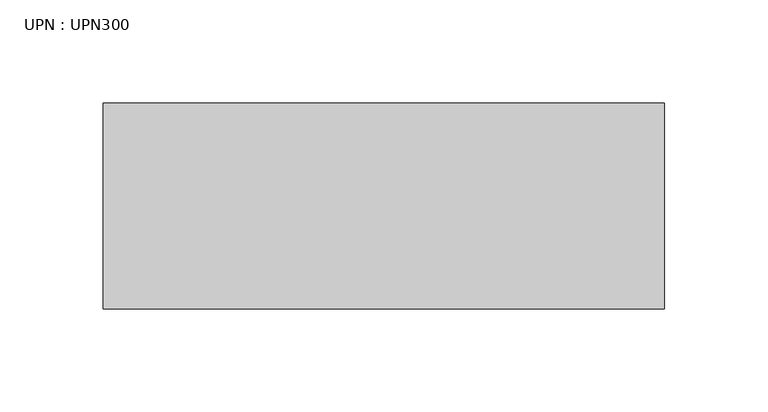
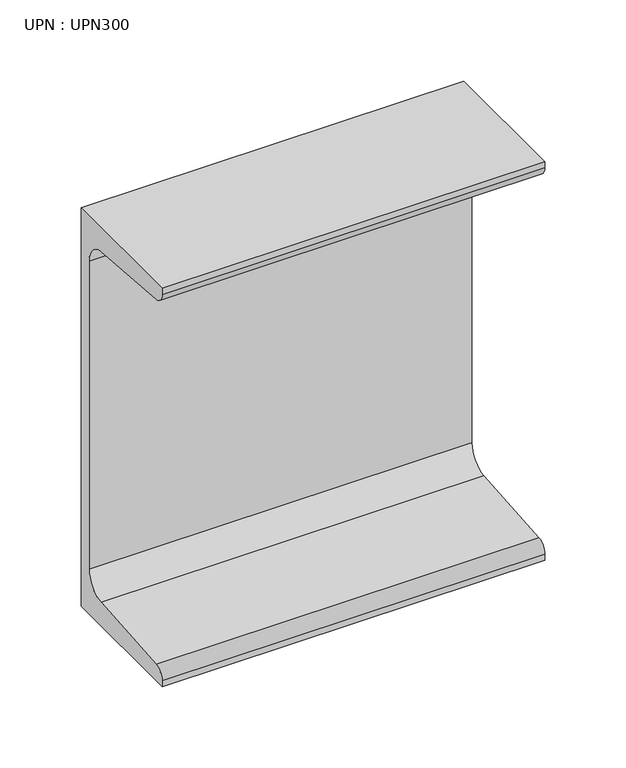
"""IFC4 building model written with IfcOpenShell, lengths in millimetres: beam geometry, UPN : UPN300."""

from ifc_helpers import new_model, si_unit, point, frame, frame_2d, origin, place, context, project, spatial, polyline, circle_curve, trimmed, segment, composite_curve, outline, extrude, source, transform, mapped, element, save


def upn_upn300_5b163803(model_context):
    return source(origin(), model_context, "Body", "SweptSolid", [
        extrude(outline(composite_curve([segment(polyline([(27.0, 150.0), (27.0, -150.0), (-73.0, -150.0), (-73.0, -145.3826224)]), True, "CONTINUOUS"), segment(trimmed(circle_curve(frame_2d((-65.0, -145.3826224)), 8.0), [point((-73.0, -145.3826224))], [point((-65.637416, -137.4080566))], False, "CARTESIAN"), True, "CONTINUOUS"), segment(polyline([(-65.637416, -137.4080566), (2.274832, -131.9797543)]), True, "CONTINUOUS"), segment(trimmed(circle_curve(frame_2d((1.0, -116.0306225)), 16.0), [point((2.274832, -131.9797543))], [point((17.0, -116.0306225))], True, "CARTESIAN"), True, "CONTINUOUS"), segment(polyline([(17.0, -116.0306225), (17.0, 116.0306225)]), True, "CONTINUOUS"), segment(trimmed(circle_curve(frame_2d((1.0, 116.0306225)), 16.0), [point((17.0, 116.0306225))], [point((2.274832, 131.9797543))], True, "CARTESIAN"), True, "CONTINUOUS"), segment(polyline([(2.274832, 131.9797543), (-65.637416, 137.4080566)]), True, "CONTINUOUS"), segment(trimmed(circle_curve(frame_2d((-65.0, 145.3826224)), 8.0), [point((-65.637416, 137.4080566))], [point((-73.0, 145.3826224))], False, "CARTESIAN"), True, "CONTINUOUS"), segment(polyline([(-73.0, 145.3826224), (-73.0, 150.0), (27.0, 150.0)]), True, "CONTINUOUS")], self_intersect=False)), frame((-98.75, 0.0, 0.0), z_axis=(1.0, 0.0, 0.0), x_axis=(0.0, 1.0, 0.0)), (0.0, 0.0, 1.0), 272.5),
    ])


if __name__ == "__main__":
    model = new_model("IFC4")
    model_context = context("Model", 3, world=origin())
    ifc_project = project(units=[si_unit("LENGTHUNIT", "METRE", prefix="MILLI")], contexts=[model_context])
    site = spatial("IfcSite", under=ifc_project)
    building = spatial("IfcBuilding", under=site)
    placement = place(None, origin())
    upn_upn300_shape = upn_upn300_5b163803(model_context)
    element("IfcBeam", 1, ObjectType="UPN : UPN300", at=placement, inside=building, context=model_context, shape_type="MappedRepresentation", body=[
        mapped(upn_upn300_shape, transform((0.0, 0.0, 0.0), x_axis=(1.0, 0.0, 0.0), y_axis=(0.0, 1.0, 0.0), z_axis=(0.0, 0.0, 1.0))),
    ])
    save(model, "model.ifc")
